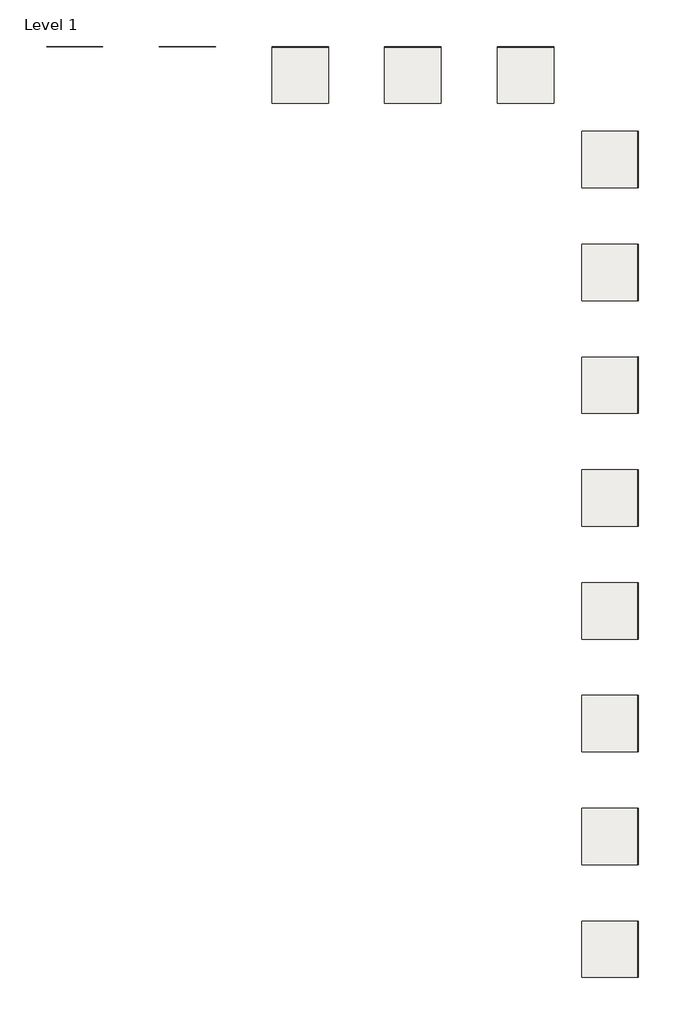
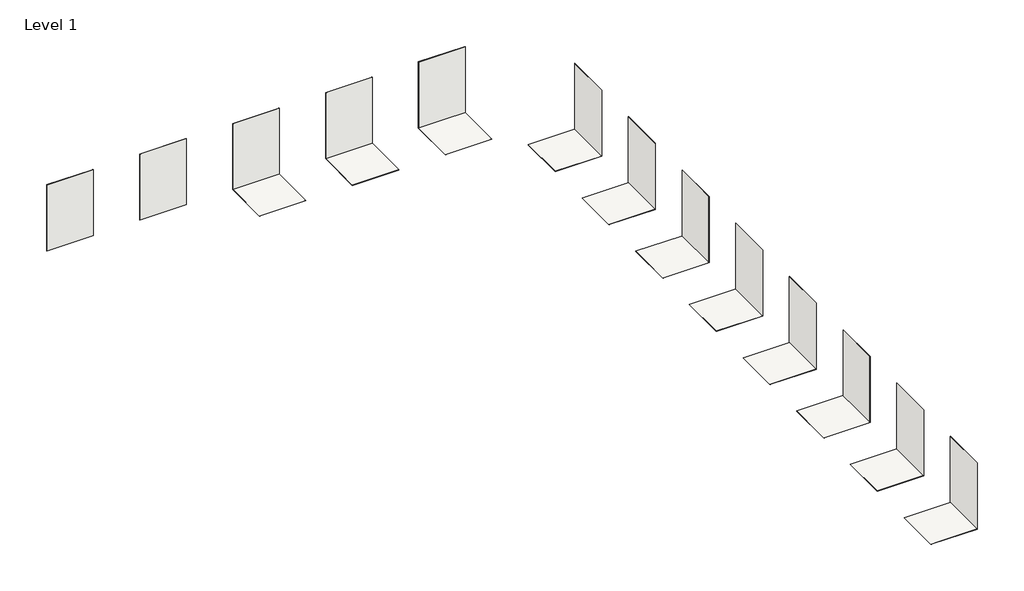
# One storey: 24 coverings.
"""IFC4 building model written with IfcOpenShell, lengths in millimetres."""

import ifcopenshell
import ifcopenshell.guid

model = None  # the IFC model being written
_history = None  # IfcOwnerHistory: only IFC2X3 demands one
_inside = {}  # id of a spatial element -> (the spatial element, [elements in it])
_under = {}  # id of a project, library or spatial element -> (it, [spatial elements below it])
_declared = {}  # id of a project -> (the project, [libraries it declares])
_typed = {}  # id of a type object -> (the type object, [elements of that type])
_made_of = {}  # id of a material, layer set ... -> (it, [elements and type objects made of it])


def new_model(schema):
    """Start an empty IFC model of exactly this schema.

    Asked for "IFC4X3", IfcOpenShell would pick the latest addendum, in which some entities
    have other attributes; the version numbers below select the first issue.
    IFC2X3 requires an IfcOwnerHistory on every rooted entity: one is made here for all.
    """
    global model, _history
    if schema == "IFC4X3":
        model = ifcopenshell.file(schema_version=(4, 3, 0, 0))
    else:
        model = ifcopenshell.file(schema=schema)
    _inside.clear()
    _under.clear()
    _declared.clear()
    _typed.clear()
    _made_of.clear()
    _history = None
    if model.schema == "IFC2X3":
        org = make("IfcOrganization", Name="unknown")
        user = make(
            "IfcPersonAndOrganization",
            ThePerson=make("IfcPerson", FamilyName="unknown"),
            TheOrganization=org,
        )
        app = make(
            "IfcApplication",
            ApplicationDeveloper=org,
            Version="unknown",
            ApplicationFullName="unknown",
            ApplicationIdentifier="unknown",
        )
        _history = make(
            "IfcOwnerHistory",
            OwningUser=user,
            OwningApplication=app,
            ChangeAction="ADDED",
            CreationDate=0,
        )
    return model


def make(cls, **values):
    """One entity of the class cls with the attributes given. An attribute that is None is left unset."""
    return model.create_entity(
        cls, **{name: value for name, value in values.items() if value is not None}
    )


def rooted(cls, **values):
    """An entity with a GlobalId (a new one), such as an element, a storey or a relation."""
    return make(cls, GlobalId=ifcopenshell.guid.new(), OwnerHistory=_history, **values)


def si_unit(unit_type, name, prefix=None):
    """IfcSIUnit, for example si_unit("LENGTHUNIT", "METRE", prefix="MILLI")."""
    return make("IfcSIUnit", UnitType=unit_type, Prefix=prefix, Name=name)


def assignment(units):
    """IfcUnitAssignment: the units of a project."""
    return None if units is None else make("IfcUnitAssignment", Units=units)


def point(xyz):
    """IfcCartesianPoint."""
    return None if xyz is None else make("IfcCartesianPoint", Coordinates=xyz)


def direction(xyz):
    """IfcDirection."""
    return None if xyz is None else make("IfcDirection", DirectionRatios=xyz)


def frame(location, z_axis=None, x_axis=None):
    """IfcAxis2Placement3D, a coordinate frame: its origin and axes. An axis left out is left unset."""
    return make(
        "IfcAxis2Placement3D",
        Location=point(location),
        Axis=direction(z_axis),
        RefDirection=direction(x_axis),
    )


def origin():
    """The frame at (0, 0, 0) with its axes left unset."""
    return frame((0.0, 0.0, 0.0))


def origin_with_axes():
    """The frame at (0, 0, 0) with the z axis (0, 0, 1) and the x axis (1, 0, 0) written out."""
    return frame((0.0, 0.0, 0.0), z_axis=(0.0, 0.0, 1.0), x_axis=(1.0, 0.0, 0.0))


def place(relative_to, where):
    """IfcLocalPlacement: puts the frame where relative to a parent placement (None: the world)."""
    return make(
        "IfcLocalPlacement", PlacementRelTo=relative_to, RelativePlacement=where
    )


def context(
    kind, dimensions, precision=None, world=None, true_north=None, identifier=None
):
    """IfcGeometricRepresentationContext, for example the 3D "Model" context."""
    return make(
        "IfcGeometricRepresentationContext",
        ContextIdentifier=identifier,
        ContextType=kind,
        CoordinateSpaceDimension=dimensions,
        Precision=precision,
        WorldCoordinateSystem=world,
        TrueNorth=true_north,
    )


def project(units=None, contexts=None):
    """IfcProject with its units and contexts."""
    return rooted(
        "IfcProject",
        Name="project",
        RepresentationContexts=contexts,
        UnitsInContext=assignment(units),
    )


def spatial(cls, under=None, at=None, **own):
    """A site, building, storey or space (cls), placed at a placement, below another one or the project."""
    s = rooted(cls, ObjectPlacement=at, **own)
    if under is not None:
        _under.setdefault(under.id(), (under, []))[1].append(s)
    return s


def polyline(points):
    """IfcPolyline through the points."""
    return make("IfcPolyline", Points=[point(p) for p in points])


def outline(outer, holes=None, kind="AREA"):
    """IfcArbitraryClosedProfileDef: a profile drawn as a closed curve; with holes, ...WithVoids."""
    if holes is None:
        return make("IfcArbitraryClosedProfileDef", ProfileType=kind, OuterCurve=outer)
    return make(
        "IfcArbitraryProfileDefWithVoids",
        ProfileType=kind,
        OuterCurve=outer,
        InnerCurves=holes,
    )


def extrude(swept, where, along, depth):
    """IfcExtrudedAreaSolid: the profile swept, set in the frame where, extruded along a direction by depth."""
    return make(
        "IfcExtrudedAreaSolid",
        SweptArea=swept,
        Position=where,
        ExtrudedDirection=direction(along),
        Depth=depth,
    )


def shape(context_of_items, identifier, shape_type, items):
    """IfcShapeRepresentation: the items that make up one representation, for example the "Body"."""
    return make(
        "IfcShapeRepresentation",
        ContextOfItems=context_of_items,
        RepresentationIdentifier=identifier,
        RepresentationType=shape_type,
        Items=items,
    )


def made_of(thing, what):
    """Note that an element or type object is made of a material, layer set ...; save() writes the relation."""
    if what is not None:
        _made_of.setdefault(what.id(), (what, []))[1].append(thing)
    return thing


def element(
    cls,
    number,
    at=None,
    inside=None,
    cuts=None,
    type_object=None,
    material=None,
    context=None,
    identifier="Body",
    shape_type=None,
    held_by="IfcProductDefinitionShape",
    body=None,
    shapes=None,
    **own,
):
    """One element of the class cls, such as IfcWall. Its Tag is "e" and its number.

    at: its placement. inside: the storey or other place that contains it. cuts: it is an
    opening in that element (IfcRelVoidsElement). A single representation is given by context,
    identifier, shape_type and body (its items); several are given by shapes. held_by: the class
    of the entity that holds the representations. save() writes the other relations.
    """
    e = rooted(cls, Tag="e%d" % number, ObjectPlacement=at, **own)
    if body is not None:
        shapes = [shape(context, identifier, shape_type, body)]
    if shapes is not None:
        e.Representation = make(held_by, Representations=shapes)
    if inside is not None:
        _inside.setdefault(inside.id(), (inside, []))[1].append(e)
    if cuts is not None:
        rooted(
            "IfcRelVoidsElement", RelatingBuildingElement=cuts, RelatedOpeningElement=e
        )
    if type_object is not None:
        _typed.setdefault(type_object.id(), (type_object, []))[1].append(e)
    return made_of(e, material)


def aggregate(whole, parts):
    """IfcRelAggregates: a whole, such as a stair, and the parts it consists of."""
    return rooted("IfcRelAggregates", RelatingObject=whole, RelatedObjects=parts)


def save(model, path):
    """Write the relations noted so far, then the file.

    IfcRelAggregates (storeys below a building ...), IfcRelContainedInSpatialStructure (elements
    in a storey), IfcRelDefinesByType, IfcRelAssociatesMaterial and IfcRelDeclares: one each for
    every whole, place, type object, material and project.
    """
    for whole, parts in _under.values():
        aggregate(whole, parts)
    for where, things in _inside.values():
        rooted(
            "IfcRelContainedInSpatialStructure",
            RelatedElements=things,
            RelatingStructure=where,
        )
    for kind, things in _typed.values():
        rooted("IfcRelDefinesByType", RelatedObjects=things, RelatingType=kind)
    for what, things in _made_of.values():
        rooted("IfcRelAssociatesMaterial", RelatedObjects=things, RelatingMaterial=what)
    for by, libraries in _declared.values():
        rooted("IfcRelDeclares", RelatingContext=by, RelatedDefinitions=libraries)
    model.write(path)


model = new_model("IFC4")

# Units and contexts
model_context = context("Model", 3, world=origin())
ifc_project = project(units=[si_unit("LENGTHUNIT", "METRE", prefix="MILLI")], contexts=[model_context])

# Site, building, storey
site = spatial("IfcSite", under=ifc_project)
building = spatial("IfcBuilding", under=site)
storey = spatial("IfcBuildingStorey", under=building, Name="Level 1", Elevation=0.0)

# Coverings
placement = place(None, origin())
element("IfcCovering", 1, ObjectType="PGR_Porcelanosa_CeramicTiles_Boston_Topo-596x596mm-100179350", at=placement, inside=storey, context=model_context, shape_type="SweptSolid", body=[
    extrude(outline(polyline([(2527.0774266, -3501.9826748), (527.0774266, -3501.9826748), (527.0774266, -1501.9826748), (2527.0774266, -1501.9826748), (2527.0774266, -3501.9826748)])), frame((0.0, 0.0, -10.5), z_axis=(0.0, 0.0, 1.0), x_axis=(1.0, 0.0, 0.0)), (0.0, 0.0, 1.0), 10.5),
])
element("IfcCovering", 2, ObjectType="PGR_Porcelanosa_CeramicTiles_Boston_Topo-596x596mm-100179350", at=placement, inside=storey, context=model_context, shape_type="SweptSolid", body=[
    extrude(outline(polyline([(2516.5774266, -3501.9826748), (2516.5774266, -1501.9826748), (2527.0774266, -1501.9826748), (2527.0774266, -3501.9826748), (2516.5774266, -3501.9826748)])), origin_with_axes(), (0.0, 0.0, 1.0), 3000.0),
])
element("IfcCovering", 3, ObjectType="PGR_Porcelanosa_CeramicTiles_Boston_Bone-435x659mm-100179098", at=placement, inside=storey, context=model_context, shape_type="SweptSolid", body=[
    extrude(outline(polyline([(2527.0774266, -7501.9826748), (527.0774266, -7501.9826748), (527.0774266, -5501.9826748), (2527.0774266, -5501.9826748), (2527.0774266, -7501.9826748)])), frame((0.0, 0.0, -10.5), z_axis=(0.0, 0.0, 1.0), x_axis=(1.0, 0.0, 0.0)), (0.0, 0.0, 1.0), 10.5),
])
element("IfcCovering", 4, ObjectType="PGR_Porcelanosa_CeramicTiles_Boston_Bone-435x659mm-100179098", at=placement, inside=storey, context=model_context, shape_type="SweptSolid", body=[
    extrude(outline(polyline([(2516.5774266, -7501.9826748), (2516.5774266, -5501.9826748), (2527.0774266, -5501.9826748), (2527.0774266, -7501.9826748), (2516.5774266, -7501.9826748)])), origin_with_axes(), (0.0, 0.0, 1.0), 3000.0),
])
element("IfcCovering", 5, ObjectType="PGR_Porcelanosa_CeramicTiles_Boston_Grafito-435x659mm-100179191", at=placement, inside=storey, context=model_context, shape_type="SweptSolid", body=[
    extrude(outline(polyline([(2527.0774266, -11501.9826748), (527.0774266, -11501.9826748), (527.0774266, -9501.9826748), (2527.0774266, -9501.9826748), (2527.0774266, -11501.9826748)])), frame((0.0, 0.0, -10.5), z_axis=(0.0, 0.0, 1.0), x_axis=(1.0, 0.0, 0.0)), (0.0, 0.0, 1.0), 10.5),
])
element("IfcCovering", 6, ObjectType="PGR_Porcelanosa_CeramicTiles_Boston_Grafito-435x659mm-100179191", at=placement, inside=storey, context=model_context, shape_type="SweptSolid", body=[
    extrude(outline(polyline([(2516.5774266, -11501.9826748), (2516.5774266, -9501.9826748), (2527.0774266, -9501.9826748), (2527.0774266, -11501.9826748), (2516.5774266, -11501.9826748)])), origin_with_axes(), (0.0, 0.0, 1.0), 3000.0),
])
element("IfcCovering", 7, ObjectType="PGR_Porcelanosa_CeramicTiles_Boston_Grafito_Antislip-435x659mm-100180940", at=placement, inside=storey, context=model_context, shape_type="SweptSolid", body=[
    extrude(outline(polyline([(2527.0774266, -15501.9826748), (527.0774266, -15501.9826748), (527.0774266, -13501.9826748), (2527.0774266, -13501.9826748), (2527.0774266, -15501.9826748)])), frame((0.0, 0.0, -10.5), z_axis=(0.0, 0.0, 1.0), x_axis=(1.0, 0.0, 0.0)), (0.0, 0.0, 1.0), 10.5),
])
element("IfcCovering", 8, ObjectType="PGR_Porcelanosa_CeramicTiles_Boston_Grafito_Antislip-435x659mm-100180940", at=placement, inside=storey, context=model_context, shape_type="SweptSolid", body=[
    extrude(outline(polyline([(2516.5774266, -15501.9826748), (2516.5774266, -13501.9826748), (2527.0774266, -13501.9826748), (2527.0774266, -15501.9826748), (2516.5774266, -15501.9826748)])), origin_with_axes(), (0.0, 0.0, 1.0), 3000.0),
])
element("IfcCovering", 9, ObjectType="PGR_Porcelanosa_CeramicTiles_Boston_Stone-435x659mm-100179183", at=placement, inside=storey, context=model_context, shape_type="SweptSolid", body=[
    extrude(outline(polyline([(2527.0774266, -19501.9826748), (527.0774266, -19501.9826748), (527.0774266, -17501.9826748), (2527.0774266, -17501.9826748), (2527.0774266, -19501.9826748)])), frame((0.0, 0.0, -10.5), z_axis=(0.0, 0.0, 1.0), x_axis=(1.0, 0.0, 0.0)), (0.0, 0.0, 1.0), 10.5),
])
element("IfcCovering", 10, ObjectType="PGR_Porcelanosa_CeramicTiles_Boston_Stone-435x659mm-100179183", at=placement, inside=storey, context=model_context, shape_type="SweptSolid", body=[
    extrude(outline(polyline([(2516.5774266, -19501.9826748), (2516.5774266, -17501.9826748), (2527.0774266, -17501.9826748), (2527.0774266, -19501.9826748), (2516.5774266, -19501.9826748)])), origin_with_axes(), (0.0, 0.0, 1.0), 3000.0),
])
element("IfcCovering", 11, ObjectType="PGR_Porcelanosa_CeramicTiles_Boston_Stone_Antislip-435x659mm-100180941", at=placement, inside=storey, context=model_context, shape_type="SweptSolid", body=[
    extrude(outline(polyline([(2527.0774266, -23501.9826748), (527.0774266, -23501.9826748), (527.0774266, -21501.9826748), (2527.0774266, -21501.9826748), (2527.0774266, -23501.9826748)])), frame((0.0, 0.0, -10.5), z_axis=(0.0, 0.0, 1.0), x_axis=(1.0, 0.0, 0.0)), (0.0, 0.0, 1.0), 10.5),
])
element("IfcCovering", 12, ObjectType="PGR_Porcelanosa_CeramicTiles_Boston_Stone_Antislip-435x659mm-100180941", at=placement, inside=storey, context=model_context, shape_type="SweptSolid", body=[
    extrude(outline(polyline([(2516.5774266, -23501.9826748), (2516.5774266, -21501.9826748), (2527.0774266, -21501.9826748), (2527.0774266, -23501.9826748), (2516.5774266, -23501.9826748)])), origin_with_axes(), (0.0, 0.0, 1.0), 3000.0),
])
element("IfcCovering", 13, ObjectType="PGR_Porcelanosa_CeramicTiles_Boston_Topo-435x659mm-100179203", at=placement, inside=storey, context=model_context, shape_type="SweptSolid", body=[
    extrude(outline(polyline([(2527.0774266, -27501.9826748), (527.0774266, -27501.9826748), (527.0774266, -25501.9826748), (2527.0774266, -25501.9826748), (2527.0774266, -27501.9826748)])), frame((0.0, 0.0, -10.5), z_axis=(0.0, 0.0, 1.0), x_axis=(1.0, 0.0, 0.0)), (0.0, 0.0, 1.0), 10.5),
])
element("IfcCovering", 14, ObjectType="PGR_Porcelanosa_CeramicTiles_Boston_Topo-435x659mm-100179203", at=placement, inside=storey, context=model_context, shape_type="SweptSolid", body=[
    extrude(outline(polyline([(2516.5774266, -27501.9826748), (2516.5774266, -25501.9826748), (2527.0774266, -25501.9826748), (2527.0774266, -27501.9826748), (2516.5774266, -27501.9826748)])), origin_with_axes(), (0.0, 0.0, 1.0), 3000.0),
])
element("IfcCovering", 15, ObjectType="PGR_Porcelanosa_CeramicTiles_Boston_Topo_Antislip-435x659mm-100180913", at=placement, inside=storey, context=model_context, shape_type="SweptSolid", body=[
    extrude(outline(polyline([(2527.0774266, -31501.9826748), (527.0774266, -31501.9826748), (527.0774266, -29501.9826748), (2527.0774266, -29501.9826748), (2527.0774266, -31501.9826748)])), frame((0.0, 0.0, -10.5), z_axis=(0.0, 0.0, 1.0), x_axis=(1.0, 0.0, 0.0)), (0.0, 0.0, 1.0), 10.5),
])
element("IfcCovering", 16, ObjectType="PGR_Porcelanosa_CeramicTiles_Boston_Topo_Antislip-435x659mm-100180913", at=placement, inside=storey, context=model_context, shape_type="SweptSolid", body=[
    extrude(outline(polyline([(2516.5774266, -31501.9826748), (2516.5774266, -29501.9826748), (2527.0774266, -29501.9826748), (2527.0774266, -31501.9826748), (2516.5774266, -31501.9826748)])), origin_with_axes(), (0.0, 0.0, 1.0), 3000.0),
])
element("IfcCovering", 17, ObjectType="PGR_Porcelanosa_CeramicTiles_Boston_Bone-596x1800mm-100179347", at=placement, inside=storey, context=model_context, shape_type="SweptSolid", body=[
    extrude(outline(polyline([(-472.9225734, 1498.0173252), (-472.9225734, -501.9826748), (-2472.9225734, -501.9826748), (-2472.9225734, 1498.0173252), (-472.9225734, 1498.0173252)])), frame((0.0, 0.0, -11.5), z_axis=(0.0, 0.0, 1.0), x_axis=(1.0, 0.0, 0.0)), (0.0, 0.0, 1.0), 11.5),
])
element("IfcCovering", 18, ObjectType="PGR_Porcelanosa_CeramicTiles_Boston_Bone-596x1800mm-100179347", at=placement, inside=storey, context=model_context, shape_type="SweptSolid", body=[
    extrude(outline(polyline([(-472.9225734, 1486.5173252), (-2472.9225734, 1486.5173252), (-2472.9225734, 1498.0173252), (-472.9225734, 1498.0173252), (-472.9225734, 1486.5173252)])), origin_with_axes(), (0.0, 0.0, 1.0), 3000.0),
])
element("IfcCovering", 19, ObjectType="PGR_Porcelanosa_CeramicTiles_Boston_Stone-596x1800mm-100179318", at=placement, inside=storey, context=model_context, shape_type="SweptSolid", body=[
    extrude(outline(polyline([(-4472.9225734, 1498.0173252), (-4472.9225734, -501.9826748), (-6472.9225734, -501.9826748), (-6472.9225734, 1498.0173252), (-4472.9225734, 1498.0173252)])), frame((0.0, 0.0, -11.5), z_axis=(0.0, 0.0, 1.0), x_axis=(1.0, 0.0, 0.0)), (0.0, 0.0, 1.0), 11.5),
])
element("IfcCovering", 20, ObjectType="PGR_Porcelanosa_CeramicTiles_Boston_Stone-596x1800mm-100179318", at=placement, inside=storey, context=model_context, shape_type="SweptSolid", body=[
    extrude(outline(polyline([(-4472.9225734, 1486.5173252), (-6472.9225734, 1486.5173252), (-6472.9225734, 1498.0173252), (-4472.9225734, 1498.0173252), (-4472.9225734, 1486.5173252)])), origin_with_axes(), (0.0, 0.0, 1.0), 3000.0),
])
element("IfcCovering", 21, ObjectType="PGR_Porcelanosa_CeramicTiles_Boston_Topo-596x1800mm-100179326", at=placement, inside=storey, context=model_context, shape_type="SweptSolid", body=[
    extrude(outline(polyline([(-8472.9225734, 1498.0173252), (-8472.9225734, -501.9826748), (-10472.9225734, -501.9826748), (-10472.9225734, 1498.0173252), (-8472.9225734, 1498.0173252)])), frame((0.0, 0.0, -11.5), z_axis=(0.0, 0.0, 1.0), x_axis=(1.0, 0.0, 0.0)), (0.0, 0.0, 1.0), 11.5),
])
element("IfcCovering", 22, ObjectType="PGR_Porcelanosa_CeramicTiles_Boston_Topo-596x1800mm-100179326", at=placement, inside=storey, context=model_context, shape_type="SweptSolid", body=[
    extrude(outline(polyline([(-8472.9225734, 1486.5173252), (-10472.9225734, 1486.5173252), (-10472.9225734, 1498.0173252), (-8472.9225734, 1498.0173252), (-8472.9225734, 1486.5173252)])), origin_with_axes(), (0.0, 0.0, 1.0), 3000.0),
])
element("IfcCovering", 23, ObjectType="PGR_Porcelanosa_CeramicTiles_Boston_Topo-316x900mm-100179290", at=placement, inside=storey, context=model_context, shape_type="SweptSolid", body=[
    extrude(outline(polyline([(-16472.9225734, 1497.0173252), (-18472.9225734, 1497.0173252), (-18472.9225734, 1506.0173252), (-16472.9225734, 1506.0173252), (-16472.9225734, 1497.0173252)])), origin_with_axes(), (0.0, 0.0, 1.0), 3000.0),
])
element("IfcCovering", 24, ObjectType="PGR_Porcelanosa_CeramicTiles_Boston_Bone-316x900mm-100179282", at=placement, inside=storey, context=model_context, shape_type="SweptSolid", body=[
    extrude(outline(polyline([(-12472.9225734, 1497.0173252), (-14472.9225734, 1497.0173252), (-14472.9225734, 1506.0173252), (-12472.9225734, 1506.0173252), (-12472.9225734, 1497.0173252)])), origin_with_axes(), (0.0, 0.0, 1.0), 3000.0),
])

save(model, "model.ifc")
